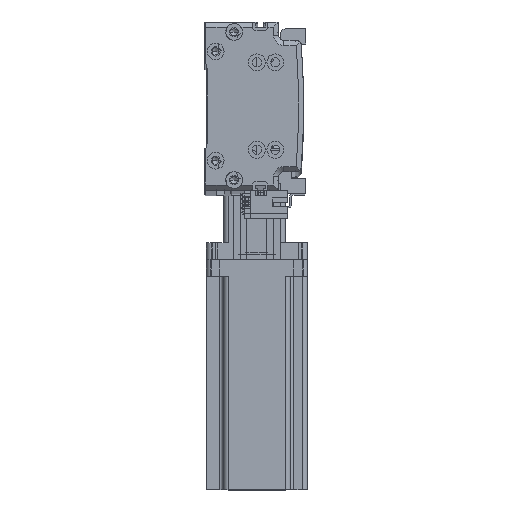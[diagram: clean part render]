
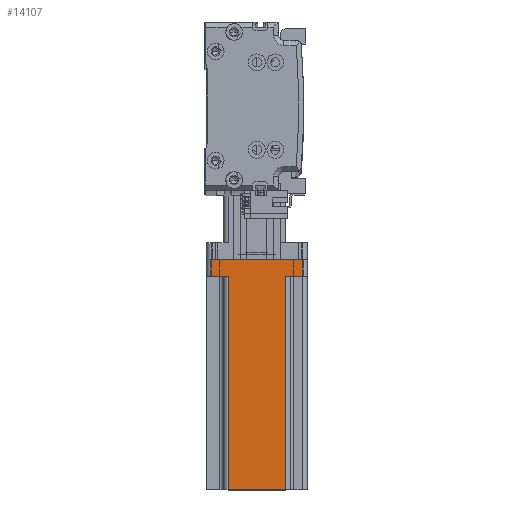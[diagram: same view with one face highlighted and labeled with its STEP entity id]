
A CAD part, top view. The second image highlights one B-rep face of the part: STEP entity #14107.
In plain terms, the highlighted planar face has unit normal (0, 0, 1) as drawn and (0, 1, 0) by its records, which use the part's own axes.
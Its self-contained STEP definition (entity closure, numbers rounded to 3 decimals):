
#1266 = DIRECTION ( 'NONE',  ( 0., 0., -1. ) ) ;
#2480 = EDGE_CURVE ( 'NONE', #41662, #22423, #23974, .T. ) ;
#2835 = CARTESIAN_POINT ( 'NONE',  ( -27., 30., 137. ) ) ;
#3949 = VECTOR ( 'NONE', #8032, 1000. ) ;
#5231 = EDGE_CURVE ( 'NONE', #16354, #38718, #24166, .T. ) ;
#5482 = LINE ( 'NONE', #51998, #3949 ) ;
#5773 = EDGE_LOOP ( 'NONE', ( #31532, #12763, #53660, #32694, #58561, #36391, #62469, #20696 ) ) ;
#5893 = EDGE_CURVE ( 'NONE', #41578, #22423, #46188, .T. ) ;
#7207 = VECTOR ( 'NONE', #56415, 1000. ) ;
#8032 = DIRECTION ( 'NONE',  ( -1., 0., 0. ) ) ;
#8120 = VECTOR ( 'NONE', #24054, 1000. ) ;
#9656 = CARTESIAN_POINT ( 'NONE',  ( 27., 30., 0. ) ) ;
#11053 = CARTESIAN_POINT ( 'NONE',  ( 27., 30., 137. ) ) ;
#11853 = EDGE_CURVE ( 'NONE', #41662, #36937, #5482, .T. ) ;
#12763 = ORIENTED_EDGE ( 'NONE', *, *, #48692, .T. ) ;
#12842 = CARTESIAN_POINT ( 'NONE',  ( 27., 30., 10. ) ) ;
#12902 = LINE ( 'NONE', #11053, #50323 ) ;
#14002 = CARTESIAN_POINT ( 'NONE',  ( -17., 30., 137. ) ) ;
#14107 = ADVANCED_FACE ( 'NONE', ( #47181 ), #16100, .F. ) ;
#16100 = PLANE ( 'NONE',  #54712 ) ;
#16354 = VERTEX_POINT ( 'NONE', #9656 ) ;
#20696 = ORIENTED_EDGE ( 'NONE', *, *, #30299, .T. ) ;
#21235 = CARTESIAN_POINT ( 'NONE',  ( 30., 30., 137. ) ) ;
#21432 = CARTESIAN_POINT ( 'NONE',  ( -27., 30., 0. ) ) ;
#22423 = VERTEX_POINT ( 'NONE', #42504 ) ;
#23113 = CARTESIAN_POINT ( 'NONE',  ( 30., 30., 0. ) ) ;
#23431 = CARTESIAN_POINT ( 'NONE',  ( -17., 30., 137. ) ) ;
#23974 = LINE ( 'NONE', #53411, #46925 ) ;
#24054 = DIRECTION ( 'NONE',  ( -1., 0., 0. ) ) ;
#24166 = LINE ( 'NONE', #23113, #8120 ) ;
#25429 = LINE ( 'NONE', #45368, #26973 ) ;
#26115 = DIRECTION ( 'NONE',  ( 1., 0., 0. ) ) ;
#26973 = VECTOR ( 'NONE', #50283, 1000. ) ;
#30299 = EDGE_CURVE ( 'NONE', #38718, #61269, #33727, .T. ) ;
#31532 = ORIENTED_EDGE ( 'NONE', *, *, #52939, .T. ) ;
#32694 = ORIENTED_EDGE ( 'NONE', *, *, #2480, .T. ) ;
#33727 = LINE ( 'NONE', #2835, #46741 ) ;
#36391 = ORIENTED_EDGE ( 'NONE', *, *, #46991, .T. ) ;
#36937 = VERTEX_POINT ( 'NONE', #14002 ) ;
#38035 = CARTESIAN_POINT ( 'NONE',  ( 17., 30., 137. ) ) ;
#38718 = VERTEX_POINT ( 'NONE', #21432 ) ;
#41578 = VERTEX_POINT ( 'NONE', #12842 ) ;
#41662 = VERTEX_POINT ( 'NONE', #38035 ) ;
#41879 = DIRECTION ( 'NONE',  ( 0., 0., 1. ) ) ;
#42504 = CARTESIAN_POINT ( 'NONE',  ( 17., 30., 10. ) ) ;
#43047 = VECTOR ( 'NONE', #43076, 1000. ) ;
#43076 = DIRECTION ( 'NONE',  ( 0., 0., 1. ) ) ;
#44568 = LINE ( 'NONE', #23431, #43047 ) ;
#45368 = CARTESIAN_POINT ( 'NONE',  ( -20., 30., 10. ) ) ;
#46188 = LINE ( 'NONE', #56889, #7207 ) ;
#46741 = VECTOR ( 'NONE', #41879, 1000. ) ;
#46925 = VECTOR ( 'NONE', #52455, 1000. ) ;
#46991 = EDGE_CURVE ( 'NONE', #41578, #16354, #12902, .T. ) ;
#47181 = FACE_OUTER_BOUND ( 'NONE', #5773, .T. ) ;
#48692 = EDGE_CURVE ( 'NONE', #48826, #36937, #44568, .T. ) ;
#48826 = VERTEX_POINT ( 'NONE', #54320 ) ;
#50283 = DIRECTION ( 'NONE',  ( 1., 0., 0. ) ) ;
#50323 = VECTOR ( 'NONE', #1266, 1000. ) ;
#51998 = CARTESIAN_POINT ( 'NONE',  ( 30., 30., 137. ) ) ;
#52455 = DIRECTION ( 'NONE',  ( 0., 0., -1. ) ) ;
#52939 = EDGE_CURVE ( 'NONE', #61269, #48826, #25429, .T. ) ;
#53411 = CARTESIAN_POINT ( 'NONE',  ( 17., 30., 137. ) ) ;
#53660 = ORIENTED_EDGE ( 'NONE', *, *, #11853, .F. ) ;
#54320 = CARTESIAN_POINT ( 'NONE',  ( -17., 30., 10. ) ) ;
#54712 = AXIS2_PLACEMENT_3D ( 'NONE', #21235, #55306, #26115 ) ;
#55306 = DIRECTION ( 'NONE',  ( 0., -1., 0. ) ) ;
#56415 = DIRECTION ( 'NONE',  ( -1., 0., 0. ) ) ;
#56889 = CARTESIAN_POINT ( 'NONE',  ( 20., 30., 10. ) ) ;
#58561 = ORIENTED_EDGE ( 'NONE', *, *, #5893, .F. ) ;
#59152 = CARTESIAN_POINT ( 'NONE',  ( -27., 30., 10. ) ) ;
#61269 = VERTEX_POINT ( 'NONE', #59152 ) ;
#62469 = ORIENTED_EDGE ( 'NONE', *, *, #5231, .T. ) ;
